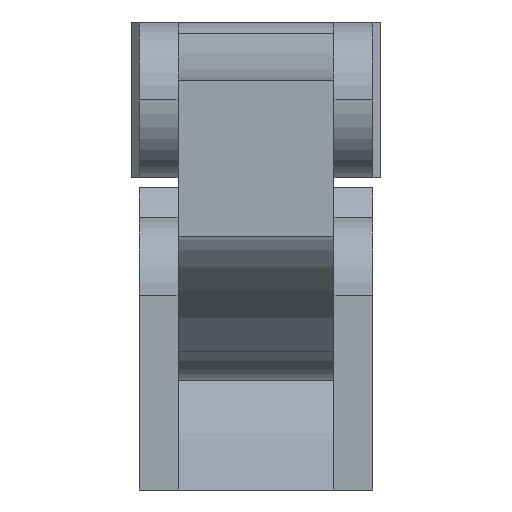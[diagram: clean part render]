
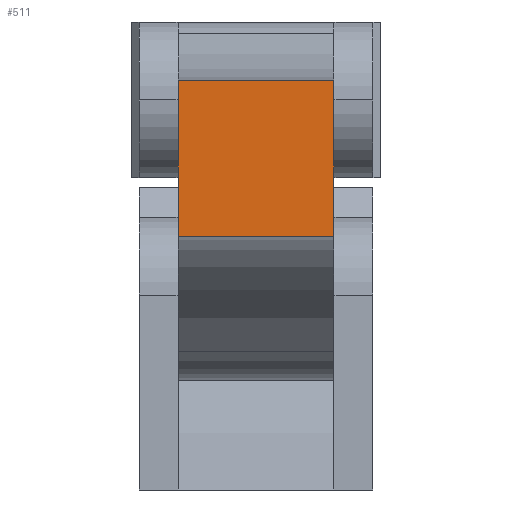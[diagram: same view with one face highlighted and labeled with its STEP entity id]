
A CAD part, left-side view. The second image highlights one B-rep face of the part: STEP entity #511.
In plain terms, the highlighted planar face has unit normal (-1, 0, 0).
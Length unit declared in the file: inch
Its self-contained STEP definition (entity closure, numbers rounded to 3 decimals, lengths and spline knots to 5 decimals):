
#511 = ADVANCED_FACE( '', ( #659 ), #660, .T. );
#659 = FACE_OUTER_BOUND( '', #965, .T. );
#660 = PLANE( '', #966 );
#965 = EDGE_LOOP( '', ( #1303, #1304, #1305, #1306 ) );
#966 = AXIS2_PLACEMENT_3D( '', #1307, #1308, #1309 );
#1303 = ORIENTED_EDGE( '', *, *, #2467, .F. );
#1304 = ORIENTED_EDGE( '', *, *, #2468, .T. );
#1305 = ORIENTED_EDGE( '', *, *, #2469, .T. );
#1306 = ORIENTED_EDGE( '', *, *, #2455, .F. );
#1307 = CARTESIAN_POINT( '', ( -2.75039, 0.25, 1.31302 ) );
#1308 = DIRECTION( '', ( -1., 0., 0. ) );
#1309 = DIRECTION( '', ( 0., 0., 1. ) );
#2455 = EDGE_CURVE( '', #2849, #2850, #2851, .T. );
#2467 = EDGE_CURVE( '', #2868, #2849, #2870, .T. );
#2468 = EDGE_CURVE( '', #2868, #2871, #2872, .T. );
#2469 = EDGE_CURVE( '', #2871, #2850, #2873, .T. );
#2849 = VERTEX_POINT( '', #3497 );
#2850 = VERTEX_POINT( '', #3498 );
#2851 = LINE( '', #3499, #3500 );
#2868 = VERTEX_POINT( '', #3521 );
#2870 = LINE( '', #3524, #3525 );
#2871 = VERTEX_POINT( '', #3526 );
#2872 = LINE( '', #3527, #3528 );
#2873 = LINE( '', #3529, #3530 );
#3497 = CARTESIAN_POINT( '', ( -2.75039, 0.25, 0.81302 ) );
#3498 = CARTESIAN_POINT( '', ( -2.75039, 0.25, 1.31302 ) );
#3499 = CARTESIAN_POINT( '', ( -2.75039, 0.25, 0.81302 ) );
#3500 = VECTOR( '', #4369, 1. );
#3521 = CARTESIAN_POINT( '', ( -2.75039, -0.25, 0.81302 ) );
#3524 = CARTESIAN_POINT( '', ( -2.75039, -0.25, 0.81302 ) );
#3525 = VECTOR( '', #4393, 1. );
#3526 = CARTESIAN_POINT( '', ( -2.75039, -0.25, 1.31302 ) );
#3527 = CARTESIAN_POINT( '', ( -2.75039, -0.25, 0.81302 ) );
#3528 = VECTOR( '', #4394, 1. );
#3529 = CARTESIAN_POINT( '', ( -2.75039, -0.25, 1.31302 ) );
#3530 = VECTOR( '', #4395, 1. );
#4369 = DIRECTION( '', ( 0., 0., 1. ) );
#4393 = DIRECTION( '', ( 0., 1., 0. ) );
#4394 = DIRECTION( '', ( 0., 0., 1. ) );
#4395 = DIRECTION( '', ( 0., 1., 0. ) );
